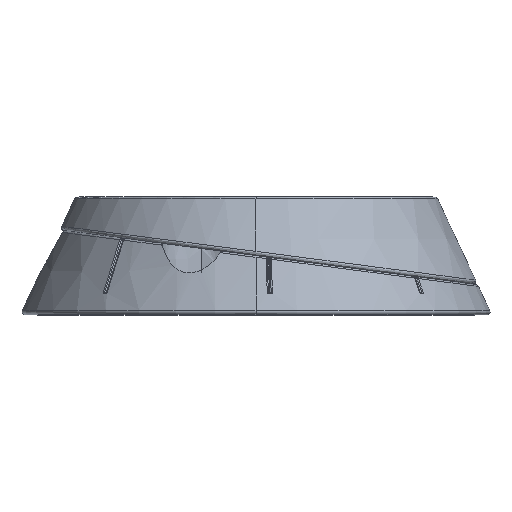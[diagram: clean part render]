
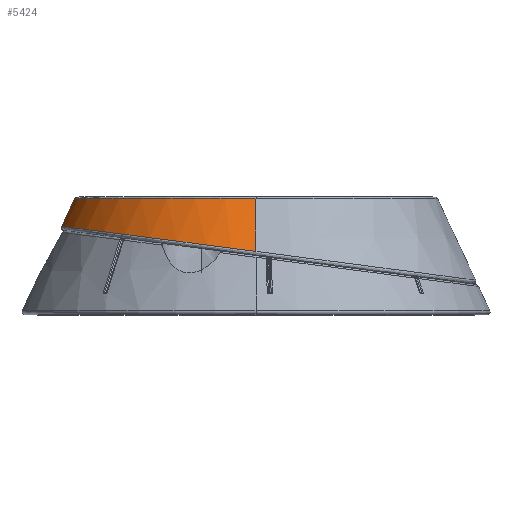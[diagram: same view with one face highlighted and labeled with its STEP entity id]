
A CAD part, top view. The second image highlights one B-rep face of the part: STEP entity #5424.
In plain terms, the highlighted conical face has half-angle 25 degrees and reference radius 40 mm.
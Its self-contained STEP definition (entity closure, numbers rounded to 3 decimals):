
#224 = CARTESIAN_POINT ( 'NONE',  ( -31.249, 18.731, 1.016 ) ) ;
#331 = CARTESIAN_POINT ( 'NONE',  ( -27.702, 14.313, 18.534 ) ) ;
#393 = CARTESIAN_POINT ( 'NONE',  ( -11.495, 12.209, 32.328 ) ) ;
#451 = CARTESIAN_POINT ( 'NONE',  ( -28.264, 14.386, 17.601 ) ) ;
#529 = CARTESIAN_POINT ( 'NONE',  ( 0., 0., 40. ) ) ;
#906 = CONICAL_SURFACE ( 'NONE', #7708, 40., 0.436 ) ;
#1101 = CARTESIAN_POINT ( 'NONE',  ( -30.792, 19.711, 1.016 ) ) ;
#1251 = CARTESIAN_POINT ( 'NONE',  ( -18.971, 13.18, 28.06 ) ) ;
#1311 = CARTESIAN_POINT ( 'NONE',  ( -29.785, 14.583, 14.704 ) ) ;
#1987 = ORIENTED_EDGE ( 'NONE', *, *, #5552, .T. ) ;
#2095 = VERTEX_POINT ( 'NONE', #2238 ) ;
#2227 = CARTESIAN_POINT ( 'NONE',  ( -22.273, 13.608, 25.236 ) ) ;
#2238 = CARTESIAN_POINT ( 'NONE',  ( -32.99, 14.999, 1.017 ) ) ;
#2358 = CARTESIAN_POINT ( 'NONE',  ( -32.42, 14.925, 6.465 ) ) ;
#2819 = B_SPLINE_CURVE_WITH_KNOTS ( 'NONE', 3,
 ( #6050, #4900, #7824, #10537, #2358, #5873, #8748, #1311, #5024, #7649, #451, #331, #11583, #3989, #11462, #8810, #2227, #9547, #9611, #6734, #1251, #3191, #6910, #11645, #393, #10478, #4048, #5930, #10654, #4839, #5085, #8625 ),
 .UNSPECIFIED., .F., .F.,
 ( 4, 2, 2, 2, 2, 2, 2, 2, 2, 2, 2, 2, 2, 2, 2, 4 ),
 ( 0., 0.003, 0.007, 0.013, 0.016, 0.018, 0.02, 0.026, 0.028, 0.03, 0.033, 0.039, 0.041, 0.043, 0.046, 0.053 ),
 .UNSPECIFIED. ) ;
#2835 = DIRECTION ( 'NONE',  ( 0., -1., 0. ) ) ;
#2916 = CARTESIAN_POINT ( 'NONE',  ( -30.871, 19.541, 1.016 ) ) ;
#3191 = CARTESIAN_POINT ( 'NONE',  ( -16.327, 12.836, 29.917 ) ) ;
#3318 = CARTESIAN_POINT ( 'NONE',  ( -30.792, 19.711, 1.016 ) ) ;
#3365 = CARTESIAN_POINT ( 'NONE',  ( 0., 19.711, 30.808 ) ) ;
#3456 = DIRECTION ( 'NONE',  ( 0., -0.906, 0.423 ) ) ;
#3865 = DIRECTION ( 'NONE',  ( 0., 0., 1. ) ) ;
#3989 = CARTESIAN_POINT ( 'NONE',  ( -25.908, 14.08, 21.244 ) ) ;
#4048 = CARTESIAN_POINT ( 'NONE',  ( -9.98, 12.012, 32.923 ) ) ;
#4500 = B_SPLINE_CURVE_WITH_KNOTS ( 'NONE', 3,
 ( #1101, #8368, #2916, #12102, #224, #11357, #7447, #9343, #6635, #11193 ),
 .UNSPECIFIED., .F., .F.,
 ( 4, 3, 3, 4 ),
 ( 0., 0.001, 0.003, 0.006 ),
 .UNSPECIFIED. ) ;
#4531 = DIRECTION ( 'NONE',  ( 0., 0., -1. ) ) ;
#4708 = ORIENTED_EDGE ( 'NONE', *, *, #10485, .F. ) ;
#4780 = CARTESIAN_POINT ( 'NONE',  ( 0., 0., 0. ) ) ;
#4839 = CARTESIAN_POINT ( 'NONE',  ( -4.296, 11.274, 34.543 ) ) ;
#4900 = CARTESIAN_POINT ( 'NONE',  ( -32.958, 14.995, 2.113 ) ) ;
#5024 = CARTESIAN_POINT ( 'NONE',  ( -29.315, 14.522, 15.683 ) ) ;
#5085 = CARTESIAN_POINT ( 'NONE',  ( -2.17, 10.998, 34.872 ) ) ;
#5114 = VERTEX_POINT ( 'NONE', #3318 ) ;
#5176 = CIRCLE ( 'NONE', #12028, 30.808 ) ;
#5388 = CARTESIAN_POINT ( 'NONE',  ( 0., 19.711, 0. ) ) ;
#5391 = EDGE_CURVE ( 'NONE', #9111, #5114, #5176, .T. ) ;
#5424 = ADVANCED_FACE ( 'NONE', ( #8460 ), #906, .T. ) ;
#5552 = EDGE_CURVE ( 'NONE', #2095, #8907, #2819, .T. ) ;
#5873 = CARTESIAN_POINT ( 'NONE',  ( -31.717, 14.834, 9.657 ) ) ;
#5930 = CARTESIAN_POINT ( 'NONE',  ( -8.451, 11.814, 33.457 ) ) ;
#6050 = CARTESIAN_POINT ( 'NONE',  ( -32.99, 14.999, 1.017 ) ) ;
#6436 = EDGE_CURVE ( 'NONE', #5114, #2095, #4500, .T. ) ;
#6635 = CARTESIAN_POINT ( 'NONE',  ( -32.635, 15.76, 1.017 ) ) ;
#6704 = EDGE_LOOP ( 'NONE', ( #4708, #12057, #7388, #1987 ) ) ;
#6734 = CARTESIAN_POINT ( 'NONE',  ( -19.826, 13.291, 27.399 ) ) ;
#6910 = CARTESIAN_POINT ( 'NONE',  ( -14.461, 12.594, 30.988 ) ) ;
#7388 = ORIENTED_EDGE ( 'NONE', *, *, #6436, .T. ) ;
#7447 = CARTESIAN_POINT ( 'NONE',  ( -31.925, 17.281, 1.016 ) ) ;
#7649 = CARTESIAN_POINT ( 'NONE',  ( -28.535, 14.421, 17.125 ) ) ;
#7708 = AXIS2_PLACEMENT_3D ( 'NONE', #4780, #2835, #3865 ) ;
#7824 = CARTESIAN_POINT ( 'NONE',  ( -32.875, 14.984, 3.208 ) ) ;
#8368 = CARTESIAN_POINT ( 'NONE',  ( -30.831, 19.626, 1.016 ) ) ;
#8460 = FACE_OUTER_BOUND ( 'NONE', #6704, .T. ) ;
#8625 = CARTESIAN_POINT ( 'NONE',  ( 0., 10.716, 35.003 ) ) ;
#8748 = CARTESIAN_POINT ( 'NONE',  ( -31.057, 14.748, 11.716 ) ) ;
#8810 = CARTESIAN_POINT ( 'NONE',  ( -22.66, 13.659, 24.856 ) ) ;
#8907 = VERTEX_POINT ( 'NONE', #10940 ) ;
#9111 = VERTEX_POINT ( 'NONE', #3365 ) ;
#9343 = CARTESIAN_POINT ( 'NONE',  ( -32.28, 16.521, 1.017 ) ) ;
#9547 = CARTESIAN_POINT ( 'NONE',  ( -21.477, 13.505, 25.979 ) ) ;
#9611 = CARTESIAN_POINT ( 'NONE',  ( -21.069, 13.452, 26.342 ) ) ;
#10478 = CARTESIAN_POINT ( 'NONE',  ( -10.487, 12.078, 32.733 ) ) ;
#10485 = EDGE_CURVE ( 'NONE', #9111, #8907, #11653, .T. ) ;
#10537 = CARTESIAN_POINT ( 'NONE',  ( -32.606, 14.949, 5.381 ) ) ;
#10654 = CARTESIAN_POINT ( 'NONE',  ( -7.42, 11.68, 33.765 ) ) ;
#10717 = VECTOR ( 'NONE', #3456, 1000. ) ;
#10940 = CARTESIAN_POINT ( 'NONE',  ( 0., 10.716, 35.003 ) ) ;
#11193 = CARTESIAN_POINT ( 'NONE',  ( -32.99, 14.999, 1.017 ) ) ;
#11357 = CARTESIAN_POINT ( 'NONE',  ( -31.587, 18.006, 1.016 ) ) ;
#11462 = CARTESIAN_POINT ( 'NONE',  ( -24.551, 13.904, 22.919 ) ) ;
#11583 = CARTESIAN_POINT ( 'NONE',  ( -27.411, 14.275, 18.992 ) ) ;
#11645 = CARTESIAN_POINT ( 'NONE',  ( -11.996, 12.274, 32.113 ) ) ;
#11653 = LINE ( 'NONE', #529, #10717 ) ;
#12000 = DIRECTION ( 'NONE',  ( 0., -1., 0. ) ) ;
#12028 = AXIS2_PLACEMENT_3D ( 'NONE', #5388, #12000, #4531 ) ;
#12057 = ORIENTED_EDGE ( 'NONE', *, *, #5391, .T. ) ;
#12102 = CARTESIAN_POINT ( 'NONE',  ( -30.911, 19.456, 1.016 ) ) ;
